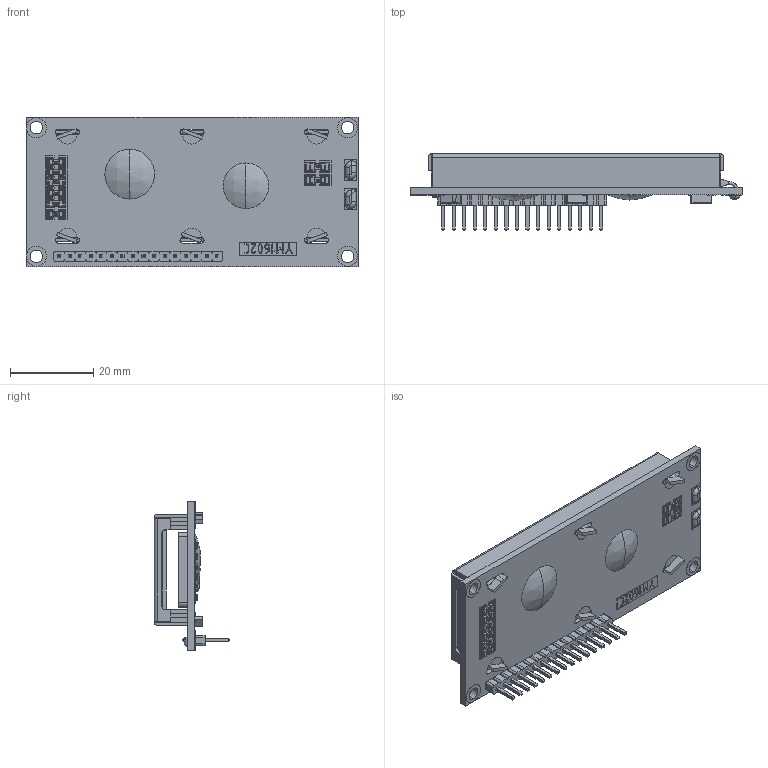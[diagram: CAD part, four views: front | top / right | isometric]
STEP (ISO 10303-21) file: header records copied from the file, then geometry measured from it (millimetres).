
FILE_DESCRIPTION (( 'STEP AP203' ), '1' );
FILE_NAME ('LCD.STEP', '2013-03-17T13:55:26', ( '' ), ( '' ), 'SwSTEP 2.0', 'SolidWorks 2012', '' );
FILE_SCHEMA (( 'CONFIG_CONTROL_DESIGN' ));
Products named in the file (9): smt_resistor101; smt_resistor222; liquid crystal grabcad; LCD; backlight; lcd window; conductor; 16pin_header__; pcbboard
Assembly tree (15 placements, depth 2):
  LCD
    pcbboard
    16pin_header__
    lcd window
    backlight
    conductor  x2
    liquid crystal grabcad
    smt_resistor222  x6
    smt_resistor101  x2
Bounding box: 80 x 18.3 x 36 mm (x, y, z)
Volume: 15579.8 mm3; surface area: 29727.3 mm2
Topology: 21 solids, 21 shells, 3199 faces, 8373 edges, 5305 vertices
Faces by surface type: plane 2290, cylinder 395, bspline 348, torus 95, sphere 71
Entity records: 85453 total; most frequent: CARTESIAN_POINT 20980, ORIENTED_EDGE 13522, DIRECTION 11665, EDGE_CURVE 6761, VECTOR 5827, LINE 5827, VERTEX_POINT 4371, EDGE_LOOP 3222
